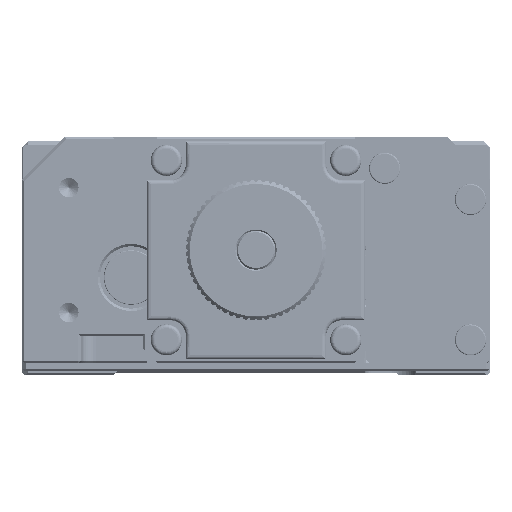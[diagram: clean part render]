
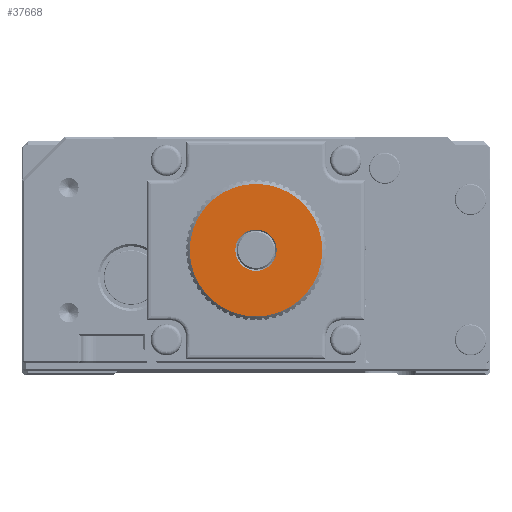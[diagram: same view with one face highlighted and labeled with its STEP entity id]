
A CAD part, front view. The second image highlights one B-rep face of the part: STEP entity #37668.
In plain terms, the highlighted planar face has unit normal (0, -1, 0).
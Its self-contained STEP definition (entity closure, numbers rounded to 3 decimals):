
#582 = AXIS2_PLACEMENT_3D ( 'NONE', #217854, #9907, #95869 ) ;
#6435 = PLANE ( 'NONE',  #91870 ) ;
#9021 = CARTESIAN_POINT ( 'NONE',  ( 0.438, -289.12, -4.027 ) ) ;
#9907 = DIRECTION ( 'NONE',  ( 0., 1., 0. ) ) ;
#26555 = EDGE_CURVE ( 'NONE', #108784, #144690, #114440, .T. ) ;
#26651 = DIRECTION ( 'NONE',  ( 0., 1., 0. ) ) ;
#37668 = ADVANCED_FACE ( 'NONE', ( #39200, #55129 ), #6435, .T. ) ;
#39200 = FACE_BOUND ( 'NONE', #53829, .T. ) ;
#53134 = AXIS2_PLACEMENT_3D ( 'NONE', #110385, #26651, #179337 ) ;
#53829 = EDGE_LOOP ( 'NONE', ( #56160, #74778 ) ) ;
#55129 = FACE_OUTER_BOUND ( 'NONE', #87426, .T. ) ;
#56160 = ORIENTED_EDGE ( 'NONE', *, *, #185845, .T. ) ;
#71886 = DIRECTION ( 'NONE',  ( 1., 0., 0. ) ) ;
#74778 = ORIENTED_EDGE ( 'NONE', *, *, #26555, .T. ) ;
#85181 = DIRECTION ( 'NONE',  ( 0., -1., 0. ) ) ;
#87426 = EDGE_LOOP ( 'NONE', ( #157706, #186599 ) ) ;
#88857 = DIRECTION ( 'NONE',  ( 0., -1., 0. ) ) ;
#91870 = AXIS2_PLACEMENT_3D ( 'NONE', #209884, #107025, #161281 ) ;
#95869 = DIRECTION ( 'NONE',  ( 1., 0., 0. ) ) ;
#97520 = CIRCLE ( 'NONE', #111843, 8.5 ) ;
#105755 = CARTESIAN_POINT ( 'NONE',  ( -8.062, -289.12, -4.027 ) ) ;
#107025 = DIRECTION ( 'NONE',  ( 0., -1., 0. ) ) ;
#108784 = VERTEX_POINT ( 'NONE', #194001 ) ;
#110385 = CARTESIAN_POINT ( 'NONE',  ( -8.062, -289.12, -4.027 ) ) ;
#111843 = AXIS2_PLACEMENT_3D ( 'NONE', #105755, #88857, #71886 ) ;
#112834 = EDGE_CURVE ( 'NONE', #158710, #209283, #97520, .T. ) ;
#114440 = CIRCLE ( 'NONE', #53134, 2.65 ) ;
#134175 = CIRCLE ( 'NONE', #582, 2.65 ) ;
#139320 = CARTESIAN_POINT ( 'NONE',  ( -8.062, -289.12, -4.027 ) ) ;
#144690 = VERTEX_POINT ( 'NONE', #150995 ) ;
#150995 = CARTESIAN_POINT ( 'NONE',  ( -5.412, -289.12, -4.027 ) ) ;
#157706 = ORIENTED_EDGE ( 'NONE', *, *, #183301, .T. ) ;
#158710 = VERTEX_POINT ( 'NONE', #9021 ) ;
#161281 = DIRECTION ( 'NONE',  ( 1., 0., 0. ) ) ;
#176328 = AXIS2_PLACEMENT_3D ( 'NONE', #139320, #85181, #221799 ) ;
#179337 = DIRECTION ( 'NONE',  ( 1., 0., 0. ) ) ;
#183301 = EDGE_CURVE ( 'NONE', #209283, #158710, #190800, .T. ) ;
#185845 = EDGE_CURVE ( 'NONE', #144690, #108784, #134175, .T. ) ;
#186599 = ORIENTED_EDGE ( 'NONE', *, *, #112834, .T. ) ;
#189920 = CARTESIAN_POINT ( 'NONE',  ( -16.562, -289.12, -4.027 ) ) ;
#190800 = CIRCLE ( 'NONE', #176328, 8.5 ) ;
#194001 = CARTESIAN_POINT ( 'NONE',  ( -10.712, -289.12, -4.027 ) ) ;
#209283 = VERTEX_POINT ( 'NONE', #189920 ) ;
#209884 = CARTESIAN_POINT ( 'NONE',  ( -8.062, -289.12, -4.027 ) ) ;
#217854 = CARTESIAN_POINT ( 'NONE',  ( -8.062, -289.12, -4.027 ) ) ;
#221799 = DIRECTION ( 'NONE',  ( 1., 0., 0. ) ) ;
